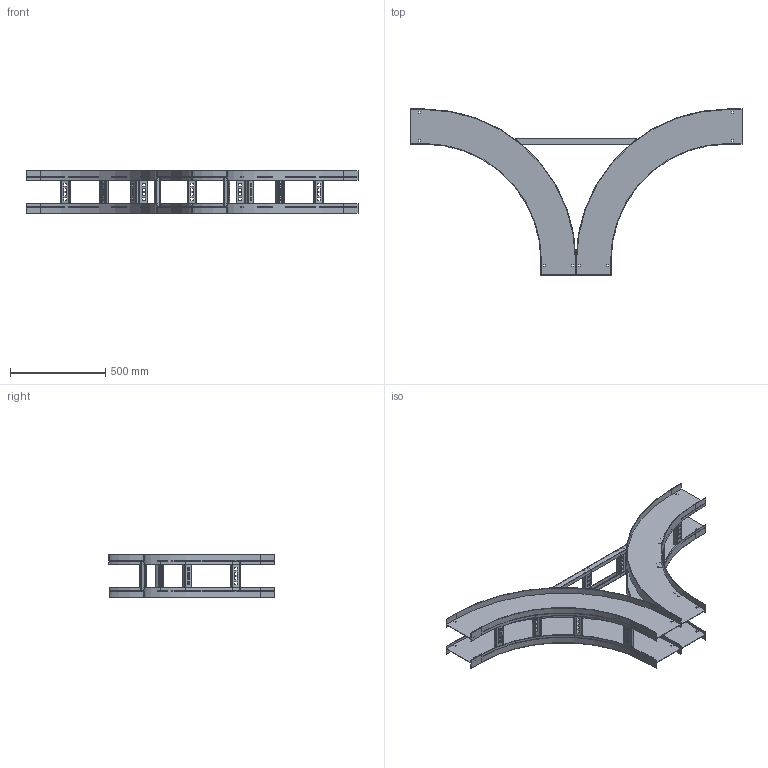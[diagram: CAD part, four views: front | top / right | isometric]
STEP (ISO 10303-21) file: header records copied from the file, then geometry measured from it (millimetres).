
FILE_DESCRIPTION((''),'2;1');
FILE_NAME('AHF706LVTD24_ASM','2010-01-28T',('erouzier'),(''),'PRO/ENGINEER BY PARAMETRIC TECHNOLOGY CORPORATION, 2008510','PRO/ENGINEER BY PARAMETRIC TECHNOLOGY CORPORATION, 2008510','');
FILE_SCHEMA(('CONFIG_CONTROL_DESIGN'));
Length unit declared in the file: inch
Products named in the file (6): CDS001658_7_90_24; CDS002159L6-P; AHF706LVO9024_ASM; CDS000495_GEN_AF6; CDS000495_GEN_AF7; AHF706LVTD24_ASM
Assembly tree (13 placements, depth 3):
  AHF706LVTD24_ASM
    AHF706LVO9024_ASM  x2
      CDS001658_7_90_24
      CDS002159L6-P
    CDS000495_GEN_AF6
    CDS000495_GEN_AF7
    CDS002159L6-P  x3
Bounding box: 1739.39 x 869.7 x 225.04 mm (x, y, z)
Volume: 4113735.2 mm3; surface area: 3390373.8 mm2
Topology: 17 solids, 17 shells, 870 faces, 2508 edges, 1672 vertices
Faces by surface type: plane 545, cylinder 325
Entity records: 4277 total; most frequent: CARTESIAN_POINT 729, DIRECTION 728, ORIENTED_EDGE 696, EDGE_CURVE 348, VECTOR 266, LINE 266, VERTEX_POINT 232, AXIS2_PLACEMENT_3D 231
